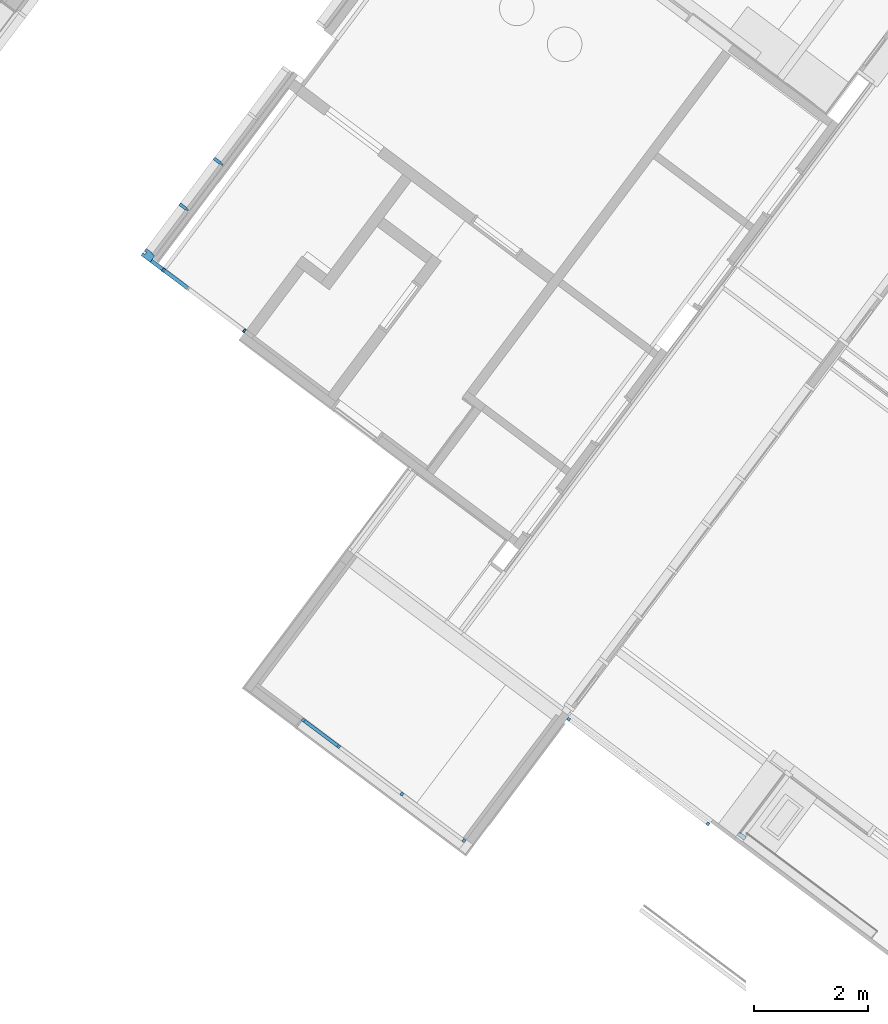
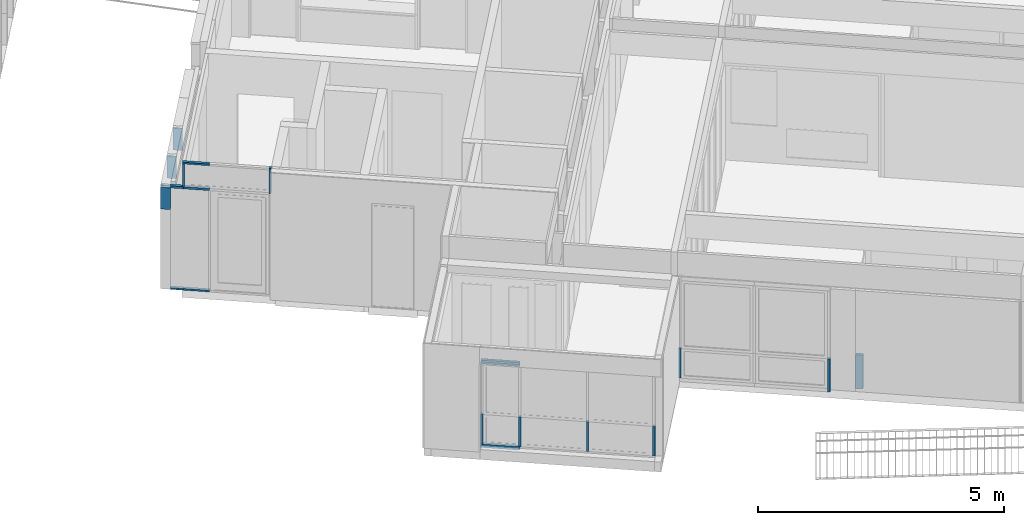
# One storey, part 79 of 243: 19 members, 5 elements without a shape of their own.
"""IFC2X3 building model written with IfcOpenShell, lengths in metres."""

from ifc_helpers import new_model, entity, si_unit, converted_unit, derived_unit, direction, frame, frame_2d, origin, place, context, subcontext, project, spatial, polyline, rectangle, outline, extrude, source, transform, mapped, material, type_object, type_shapes, element, aggregate, save


model = new_model("IFC2X3")

# Units and contexts
model_context = context("Model", 3, precision=1e-05, world=origin(), true_north=direction((6.123031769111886e-17, 1.0)))
body_context = subcontext(model_context, "Body", "Model", "MODEL_VIEW")
ifc_project = project(units=[si_unit("LENGTHUNIT", "METRE"), si_unit("AREAUNIT", "SQUARE_METRE"), si_unit("VOLUMEUNIT", "CUBIC_METRE"), converted_unit("PLANEANGLEUNIT", "DEGREE", entity("IfcRatioMeasure", 0.017453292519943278), si_unit("PLANEANGLEUNIT", "RADIAN"), dimensions=[0, 0, 0, 0, 0, 0, 0]), si_unit("MASSUNIT", "GRAM", prefix="KILO"), derived_unit("MASSDENSITYUNIT", [(si_unit("MASSUNIT", "GRAM", prefix="KILO"), 1), (si_unit("LENGTHUNIT", "METRE"), -3)]), derived_unit("IONCONCENTRATIONUNIT", [(si_unit("MASSUNIT", "GRAM", prefix="KILO"), 1), (si_unit("LENGTHUNIT", "METRE"), -3)]), derived_unit("MOMENTOFINERTIAUNIT", [(si_unit("LENGTHUNIT", "METRE"), 4)]), si_unit("TIMEUNIT", "SECOND"), si_unit("FREQUENCYUNIT", "HERTZ"), si_unit("THERMODYNAMICTEMPERATUREUNIT", "DEGREE_CELSIUS"), derived_unit("THERMALTRANSMITTANCEUNIT", [(si_unit("MASSUNIT", "GRAM", prefix="KILO"), 1), (si_unit("THERMODYNAMICTEMPERATUREUNIT", "KELVIN"), -1), (si_unit("TIMEUNIT", "SECOND"), -3)]), derived_unit("THERMALCONDUCTANCEUNIT", [(si_unit("MASSUNIT", "GRAM", prefix="KILO"), 1), (si_unit("THERMODYNAMICTEMPERATUREUNIT", "KELVIN"), -1), (si_unit("TIMEUNIT", "SECOND"), -3), (si_unit("LENGTHUNIT", "METRE"), 1)]), derived_unit("VOLUMETRICFLOWRATEUNIT", [(si_unit("LENGTHUNIT", "METRE"), 3), (si_unit("TIMEUNIT", "SECOND"), -1)]), derived_unit("MASSFLOWRATEUNIT", [(si_unit("MASSUNIT", "GRAM", prefix="KILO"), 1), (si_unit("TIMEUNIT", "SECOND"), -1)]), derived_unit("ROTATIONALFREQUENCYUNIT", [(si_unit("TIMEUNIT", "SECOND"), -1)]), si_unit("ELECTRICCURRENTUNIT", "AMPERE"), si_unit("ELECTRICVOLTAGEUNIT", "VOLT"), si_unit("POWERUNIT", "WATT"), si_unit("FORCEUNIT", "NEWTON", prefix="KILO"), si_unit("ILLUMINANCEUNIT", "LUX"), si_unit("LUMINOUSFLUXUNIT", "LUMEN"), si_unit("LUMINOUSINTENSITYUNIT", "CANDELA"), derived_unit("USERDEFINED", [(si_unit("MASSUNIT", "GRAM", prefix="KILO"), -1), (si_unit("LENGTHUNIT", "METRE"), -2), (si_unit("TIMEUNIT", "SECOND"), 3), (si_unit("LUMINOUSFLUXUNIT", "LUMEN"), 1)]), derived_unit("USERDEFINED", [(si_unit("MASSUNIT", "GRAM", prefix="KILO"), 1), (si_unit("TIMEUNIT", "SECOND"), -3), (si_unit("LENGTHUNIT", "METRE"), 3), (si_unit("ELECTRICCURRENTUNIT", "AMPERE"), -2)]), derived_unit("SOUNDPOWERUNIT", [(si_unit("MASSUNIT", "GRAM", prefix="KILO"), 1), (si_unit("TIMEUNIT", "SECOND"), -3), (si_unit("LENGTHUNIT", "METRE"), 2)]), derived_unit("SOUNDPRESSUREUNIT", [(si_unit("MASSUNIT", "GRAM", prefix="KILO"), 1), (si_unit("LENGTHUNIT", "METRE"), -1), (si_unit("TIMEUNIT", "SECOND"), -2)]), derived_unit("LINEARVELOCITYUNIT", [(si_unit("LENGTHUNIT", "METRE"), 1), (si_unit("TIMEUNIT", "SECOND"), -1)]), si_unit("PRESSUREUNIT", "PASCAL"), derived_unit("USERDEFINED", [(si_unit("MASSUNIT", "GRAM", prefix="KILO"), 1), (si_unit("LENGTHUNIT", "METRE"), -2), (si_unit("TIMEUNIT", "SECOND"), -2)]), derived_unit("LINEARFORCEUNIT", [(si_unit("MASSUNIT", "GRAM", prefix="KILO"), 1), (si_unit("TIMEUNIT", "SECOND"), -2)]), derived_unit("PLANARFORCEUNIT", [(si_unit("MASSUNIT", "GRAM", prefix="KILO"), 1), (si_unit("LENGTHUNIT", "METRE"), -1), (si_unit("TIMEUNIT", "SECOND"), -2)]), derived_unit("SPECIFICHEATCAPACITYUNIT", [(si_unit("THERMODYNAMICTEMPERATUREUNIT", "KELVIN"), -1), (si_unit("LENGTHUNIT", "METRE"), 2), (si_unit("TIMEUNIT", "SECOND"), -2)]), derived_unit("HEATINGVALUEUNIT", [(si_unit("LENGTHUNIT", "METRE"), 2), (si_unit("TIMEUNIT", "SECOND"), -2)]), derived_unit("VAPORPERMEABILITYUNIT", [(si_unit("LENGTHUNIT", "METRE"), -1), (si_unit("TIMEUNIT", "SECOND"), 1)]), derived_unit("DYNAMICVISCOSITYUNIT", [(si_unit("MASSUNIT", "GRAM", prefix="KILO"), 1), (si_unit("TIMEUNIT", "SECOND"), -1), (si_unit("LENGTHUNIT", "METRE"), -1)]), derived_unit("THERMALEXPANSIONCOEFFICIENTUNIT", [(si_unit("THERMODYNAMICTEMPERATUREUNIT", "KELVIN"), -1)]), derived_unit("MODULUSOFELASTICITYUNIT", [(si_unit("MASSUNIT", "GRAM", prefix="KILO"), 1), (si_unit("LENGTHUNIT", "METRE"), -1), (si_unit("TIMEUNIT", "SECOND"), -2)]), derived_unit("ISOTHERMALMOISTURECAPACITYUNIT", [(si_unit("LENGTHUNIT", "METRE"), 3), (si_unit("MASSUNIT", "GRAM", prefix="KILO"), -1)]), derived_unit("MOISTUREDIFFUSIVITYUNIT", [(si_unit("TIMEUNIT", "SECOND"), -1), (si_unit("LENGTHUNIT", "METRE"), 2)])], contexts=[model_context])

# Site, building, storey
site_placement = place(None, frame((0.0, 0.0, 235.0), z_axis=(0.0, 0.0, 1.0), x_axis=(-0.7996477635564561, 0.6004693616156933, 0.0)))
site = spatial("IfcSite", under=ifc_project, at=site_placement, Name="Default", CompositionType="ELEMENT")
building_placement = place(site_placement, origin())
building = spatial("IfcBuilding", under=site, at=building_placement, CompositionType="ELEMENT")
storey_placement = place(building_placement, origin())
storey = spatial("IfcBuildingStorey", under=building, at=storey_placement, Name="P0- Escola", CompositionType="ELEMENT", Elevation=0.0)

# Curtain wall, members
curtain_wall_type_1 = type_object("IfcCurtainWallType", Name="Muro cortina:MC- EXT- AL3", PredefinedType="NOTDEFINED")
curtain_wall_1_placement = place(storey_placement, origin())
curtain_wall_1 = element("IfcCurtainWall", 1, at=curtain_wall_1_placement, inside=storey, type_object=curtain_wall_type_1, Name="Muro cortina:MC- EXT- AL3", ObjectType="Muro cortina:MC- EXT- AL3")
ifc_material_1 = material(Name="_Alumini- T1- Perfil")
member_type_1 = type_object("IfcMemberType", Name="Montante rectangular:MC- Alu- 140x52,5 cm- Fa pista- Superior", PredefinedType="MULLION", material=ifc_material_1)
shared_shape_1 = source(origin(), body_context, "Body", "SweptSolid", [
    extrude(outline(polyline([(-0.02066666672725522, -0.04916666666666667), (0.03933333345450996, -0.04916666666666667), (0.03933333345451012, 0.00083333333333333), (-0.018666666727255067, 0.00083333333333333), (-0.018666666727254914, 0.04833333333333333), (-0.020666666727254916, 0.048333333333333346), (-0.02066666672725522, -0.04916666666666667)])), frame((-0.048333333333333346, 0.03933333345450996, -0.7999999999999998), z_axis=(0.0, 0.0, 1.0), x_axis=(0.0, -1.0, 0.0)), (0.0, 0.0, 1.0), 0.7999999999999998),
])
type_shapes(member_type_1, [shared_shape_1])
member_1_placement = place(curtain_wall_1_placement, frame((16.953147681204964, -15.46019175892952, 2.1699999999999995), z_axis=(1.0, 0.0, 0.0), x_axis=(0.0, 0.0, 1.0)))
member_1 = element("IfcMember", 2, at=member_1_placement, type_object=member_type_1, material=ifc_material_1, Name="Montante rectangular:MC- Alu- 140x52,5 cm- Fa pista- Superior", ObjectType="Montante rectangular:MC- Alu- 140x52,5 cm- Fa pista- Superior", context=body_context, shape_type="MappedRepresentation", body=[
    mapped(shared_shape_1, transform((0.0, 0.0, 0.0), scale=1.0)),
])
member_type_2 = type_object("IfcMemberType", Name="Montante rectangular:MC- Alu- 50x60 cm- Fa pista- Centre", PredefinedType="MULLION", material=ifc_material_1)
shared_shape_2 = source(origin(), body_context, "Body", "SweptSolid", [
    extrude(rectangle(XDim=0.060000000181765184, YDim=0.05, at=frame_2d((3.469446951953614e-18, 0.0), x_axis=(1.0, 0.0))), frame((-0.025, 0.030000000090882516, -0.7349999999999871), z_axis=(0.0, 0.0, 1.0), x_axis=(0.0, -1.0, 0.0)), (0.0, 0.0, 1.0), 0.7349999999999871),
])
type_shapes(member_type_2, [shared_shape_2])
member_2_placement = place(curtain_wall_1_placement, frame((16.953147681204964, -15.46019175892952, 0.085), z_axis=(0.0, 0.0, -1.0), x_axis=(1.0, 0.0, 0.0)))
member_2 = element("IfcMember", 3, at=member_2_placement, type_object=member_type_2, material=ifc_material_1, Name="Montante rectangular:MC- Alu- 50x60 cm- Fa pista- Centre", ObjectType="Montante rectangular:MC- Alu- 50x60 cm- Fa pista- Centre", context=body_context, shape_type="MappedRepresentation", body=[
    mapped(shared_shape_2, transform((0.0, 0.0, 0.0), scale=1.0)),
])
member_type_3 = type_object("IfcMemberType", Name="Montante rectangular:MC- Alu- 52x80 cm- Fa pista- inferior", PredefinedType="MULLION", material=ifc_material_1)
shared_shape_3 = source(origin(), body_context, "Body", "SweptSolid", [
    extrude(rectangle(XDim=0.06000000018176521, YDim=0.08500000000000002, at=frame_2d((-5.204170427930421e-18, -6.938893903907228e-18), x_axis=(1.0, 0.0))), frame((-0.0425, 0.030000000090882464, -0.8000000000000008), z_axis=(0.0, 0.0, 1.0), x_axis=(0.0, -1.0, 0.0)), (0.0, 0.0, 1.0), 0.8),
])
type_shapes(member_type_3, [shared_shape_3])
member_3_placement = place(curtain_wall_1_placement, frame((16.153147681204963, -15.460191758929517, 0.0), z_axis=(-1.0, 0.0, 0.0), x_axis=(0.0, 0.0, -1.0)))
member_3 = element("IfcMember", 4, at=member_3_placement, type_object=member_type_3, material=ifc_material_1, Name="Montante rectangular:MC- Alu- 52x80 cm- Fa pista- inferior", ObjectType="Montante rectangular:MC- Alu- 52x80 cm- Fa pista- inferior", context=body_context, shape_type="MappedRepresentation", body=[
    mapped(shared_shape_3, transform((0.0, 0.0, 0.0), scale=1.0)),
])
member_type_4 = type_object("IfcMemberType", Name="Montante rectangular:MC- Alu- 50x60 cm- Fa pista- Centre", PredefinedType="MULLION", material=ifc_material_1)
shared_shape_4 = source(origin(), body_context, "Body", "SweptSolid", [
    extrude(rectangle(XDim=0.0600000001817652, YDim=0.05, at=frame_2d((8.673617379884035e-18, 0.0), x_axis=(1.0, 0.0))), frame((0.0, 0.030000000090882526, -0.7349999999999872), z_axis=(0.0, 0.0, 1.0), x_axis=(0.0, -1.0, 0.0)), (0.0, 0.0, 1.0), 0.7349999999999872),
])
type_shapes(member_type_4, [shared_shape_4])
member_4_placement = place(curtain_wall_1_placement, frame((16.153147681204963, -15.460191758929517, 0.085), z_axis=(0.0, 0.0, -1.0), x_axis=(1.0, 0.0, 0.0)))
member_4 = element("IfcMember", 5, at=member_4_placement, type_object=member_type_4, material=ifc_material_1, Name="Montante rectangular:MC- Alu- 50x60 cm- Fa pista- Centre", ObjectType="Montante rectangular:MC- Alu- 50x60 cm- Fa pista- Centre", context=body_context, shape_type="MappedRepresentation", body=[
    mapped(shared_shape_4, transform((0.0, 0.0, 0.0), scale=1.0)),
])
member_5_placement = place(curtain_wall_1_placement, frame((14.76914768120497, -15.460191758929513, 0.085), z_axis=(0.0, 0.0, -1.0), x_axis=(1.0, 0.0, 0.0)))
member_5 = element("IfcMember", 6, at=member_5_placement, type_object=member_type_4, material=ifc_material_1, Name="Montante rectangular:MC- Alu- 50x60 cm- Fa pista- Centre", ObjectType="Montante rectangular:MC- Alu- 50x60 cm- Fa pista- Centre", context=body_context, shape_type="MappedRepresentation", body=[
    mapped(shared_shape_4, transform((0.0, 0.0, 0.0), scale=1.0)),
])
member_type_5 = type_object("IfcMemberType", Name="Montante rectangular:MC- Alu- 50x60 cm- Fa pista- Centre", PredefinedType="MULLION", material=ifc_material_1)
shared_shape_5 = source(origin(), body_context, "Body", "SweptSolid", [
    extrude(rectangle(XDim=0.06000000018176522, YDim=0.05, at=frame_2d((-3.469446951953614e-18, 0.0), x_axis=(1.0, 0.0))), frame((-0.025, 0.030000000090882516, -0.734999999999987), z_axis=(0.0, 0.0, 1.0), x_axis=(0.0, -1.0, 0.0)), (0.0, 0.0, 1.0), 0.734999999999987),
])
type_shapes(member_type_5, [shared_shape_5])
member_6_placement = place(curtain_wall_1_placement, frame((13.385147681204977, -15.46019175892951, 0.8199999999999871), z_axis=(0.0, 0.0, 1.0), x_axis=(-1.0, 0.0, 0.0)))
member_6 = element("IfcMember", 7, at=member_6_placement, type_object=member_type_5, material=ifc_material_1, Name="Montante rectangular:MC- Alu- 50x60 cm- Fa pista- Centre", ObjectType="Montante rectangular:MC- Alu- 50x60 cm- Fa pista- Centre", context=body_context, shape_type="MappedRepresentation", body=[
    mapped(shared_shape_5, transform((0.0, 0.0, 0.0), scale=1.0)),
])
aggregate(curtain_wall_1, [member_1, member_2, member_3, member_4, member_6, member_5])

# Curtain wall, member
curtain_wall_type_2 = type_object("IfcCurtainWallType", Name="Muro cortina:MC- INT- k1", PredefinedType="NOTDEFINED")
curtain_wall_2_placement = place(storey_placement, origin())
curtain_wall_2 = element("IfcCurtainWall", 8, at=curtain_wall_2_placement, inside=storey, type_object=curtain_wall_type_2, Name="Muro cortina:MC- INT- k1", ObjectType="Muro cortina:MC- INT- k1")
ifc_material_2 = material(Name="_Fusta massisa- T1")
member_type_6 = type_object("IfcMemberType", Name="Montante rectangular:MC- Fusta- 15x7- Neutre", PredefinedType="MULLION", material=ifc_material_2)
shared_shape_6 = source(origin(), body_context, "Body", "SweptSolid", [
    extrude(rectangle(XDim=0.1499999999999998, YDim=0.06999999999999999, at=frame_2d((4.85722573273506e-17, 0.0), x_axis=(1.0, 0.0))), frame((-0.034999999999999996, -0.04899999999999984, -0.8399999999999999), z_axis=(0.0, 0.0, 1.0), x_axis=(0.0, -1.0, 0.0)), (0.0, 0.0, 1.0), 0.8399999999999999),
])
type_shapes(member_type_6, [shared_shape_6])
member_7_placement = place(curtain_wall_2_placement, frame((9.619147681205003, -18.440191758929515, 0.0), z_axis=(0.0, 0.0, -1.0), x_axis=(0.0, 1.0, 0.0)))
member_7 = element("IfcMember", 9, at=member_7_placement, type_object=member_type_6, material=ifc_material_2, Name="Montante rectangular:MC- Fusta- 15x7- Neutre", ObjectType="Montante rectangular:MC- Fusta- 15x7- Neutre", context=body_context, shape_type="MappedRepresentation", body=[
    mapped(shared_shape_6, transform((0.0, 0.0, 0.0), scale=1.0)),
])
aggregate(curtain_wall_2, [member_7])

# Curtain wall, members
curtain_wall_type_3 = type_object("IfcCurtainWallType", Name="Muro cortina:MC- EXT- AL1- Fa porxo", PredefinedType="NOTDEFINED")
curtain_wall_3_placement = place(storey_placement, origin())
curtain_wall_3 = element("IfcCurtainWall", 10, at=curtain_wall_3_placement, inside=storey, type_object=curtain_wall_type_3, Name="Muro cortina:MC- EXT- AL1- Fa porxo", ObjectType="Muro cortina:MC- EXT- AL1- Fa porxo")
member_type_7 = type_object("IfcMemberType", Name="Montante rectangular:MC- Alu- 65x41 cm- Fa Porxo- Centre", PredefinedType="MULLION", material=ifc_material_1)
shared_shape_7 = source(origin(), body_context, "Body", "SweptSolid", [
    extrude(rectangle(XDim=0.06500000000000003, YDim=0.041000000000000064, at=frame_2d((0.0, -8.673617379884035e-18), x_axis=(1.0, 0.0))), frame((-0.020500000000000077, -0.032499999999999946, -0.6312500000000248), z_axis=(0.0, 0.0, 1.0), x_axis=(0.0, -1.0, 0.0)), (0.0, 0.0, 1.0), 0.6312500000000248),
])
type_shapes(member_type_7, [shared_shape_7])
member_8_placement = place(curtain_wall_3_placement, frame((21.825147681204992, -20.288941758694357, 2.51875), z_axis=(0.0, 0.0, -1.0), x_axis=(-1.0, 0.0, 0.0)))
member_8 = element("IfcMember", 11, at=member_8_placement, type_object=member_type_7, material=ifc_material_1, Name="Montante rectangular:MC- Alu- 65x41 cm- Fa Porxo- Centre", ObjectType="Montante rectangular:MC- Alu- 65x41 cm- Fa Porxo- Centre", context=body_context, shape_type="MappedRepresentation", body=[
    mapped(shared_shape_7, transform((0.0, 0.0, 0.0), scale=1.0)),
])
member_type_8 = type_object("IfcMemberType", Name="Montante rectangular:MC- Alu- 65x41 cm- Fa Porxo- Centre", PredefinedType="MULLION", material=ifc_material_1)
shared_shape_8 = source(origin(), body_context, "Body", "SweptSolid", [
    extrude(rectangle(XDim=0.06500000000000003, YDim=0.041000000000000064, at=frame_2d((0.0, -8.673617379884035e-18), x_axis=(1.0, 0.0))), frame((-0.020500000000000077, -0.032499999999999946, -0.5538333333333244), z_axis=(0.0, 0.0, 1.0), x_axis=(0.0, -1.0, 0.0)), (0.0, 0.0, 1.0), 0.5538333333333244),
])
type_shapes(member_type_8, [shared_shape_8])
member_9_placement = place(curtain_wall_3_placement, frame((23.085147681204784, -20.288941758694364, 3.150000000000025), z_axis=(-1.0, 0.0, 0.0), x_axis=(0.0, 0.0, 1.0)))
member_9 = element("IfcMember", 12, at=member_9_placement, type_object=member_type_8, material=ifc_material_1, Name="Montante rectangular:MC- Alu- 65x41 cm- Fa Porxo- Centre", ObjectType="Montante rectangular:MC- Alu- 65x41 cm- Fa Porxo- Centre", context=body_context, shape_type="MappedRepresentation", body=[
    mapped(shared_shape_8, transform((0.0, 0.0, 0.0), scale=1.0)),
])
member_type_9 = type_object("IfcMemberType", Name="Montante rectangular:MC- Alu- 65x41 cm- Fa Porxo- Centre", PredefinedType="MULLION", material=ifc_material_1)
shared_shape_9 = source(origin(), body_context, "Body", "SweptSolid", [
    extrude(rectangle(XDim=0.06500000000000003, YDim=0.041000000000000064, at=frame_2d((3.469446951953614e-18, -5.204170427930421e-18), x_axis=(1.0, 0.0))), frame((-0.020499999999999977, -0.032499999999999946, -0.5333333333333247), z_axis=(0.0, 0.0, 1.0), x_axis=(0.0, -1.0, 0.0)), (0.0, 0.0, 1.0), 0.5333333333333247),
])
type_shapes(member_type_9, [shared_shape_9])
member_10_placement = place(curtain_wall_3_placement, frame((23.61848101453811, -20.288941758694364, -0.020000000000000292), z_axis=(1.0, 0.0, 0.0), x_axis=(0.0, 0.0, -1.0)))
member_10 = element("IfcMember", 13, at=member_10_placement, type_object=member_type_9, material=ifc_material_1, Name="Montante rectangular:MC- Alu- 65x41 cm- Fa Porxo- Centre", ObjectType="Montante rectangular:MC- Alu- 65x41 cm- Fa Porxo- Centre", context=body_context, shape_type="MappedRepresentation", body=[
    mapped(shared_shape_9, transform((0.0, 0.0, 0.0), scale=1.0)),
])
member_type_10 = type_object("IfcMemberType", Name="Montante rectangular:MC- Alu- 65x52,5 cm- Fa Porxo- Centre", PredefinedType="MULLION", material=ifc_material_1)
shared_shape_10 = source(origin(), body_context, "Body", "SweptSolid", [
    extrude(rectangle(XDim=0.06500000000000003, YDim=0.05300000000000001, at=frame_2d((3.469446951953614e-18, 3.469446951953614e-18), x_axis=(1.0, 0.0))), frame((0.0, -0.03249999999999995, -0.5333333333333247), z_axis=(0.0, 0.0, 1.0), x_axis=(0.0, -1.0, 0.0)), (0.0, 0.0, 1.0), 0.5333333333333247),
])
type_shapes(member_type_10, [shared_shape_10])
member_11_placement = place(curtain_wall_3_placement, frame((23.085147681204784, -20.288941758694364, 2.51875), z_axis=(-1.0, 0.0, 0.0), x_axis=(0.0, 0.0, 1.0)))
member_11 = element("IfcMember", 14, at=member_11_placement, type_object=member_type_10, material=ifc_material_1, Name="Montante rectangular:MC- Alu- 65x52,5 cm- Fa Porxo- Centre", ObjectType="Montante rectangular:MC- Alu- 65x52,5 cm- Fa Porxo- Centre", context=body_context, shape_type="MappedRepresentation", body=[
    mapped(shared_shape_10, transform((0.0, 0.0, 0.0), scale=1.0)),
])
member_type_11 = type_object("IfcMemberType", Name="Montante rectangular:MC- Alu- 65x41 cm- Fa Porxo- Centre", PredefinedType="MULLION", material=ifc_material_1)
shared_shape_11 = source(origin(), body_context, "Body", "SweptSolid", [
    extrude(rectangle(XDim=0.06500000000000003, YDim=0.04100000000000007, at=frame_2d((0.0, -8.673617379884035e-18), x_axis=(1.0, 0.0))), frame((0.0, -0.032499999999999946, -0.5637500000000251), z_axis=(0.0, 0.0, 1.0), x_axis=(0.0, -1.0, 0.0)), (0.0, 0.0, 1.0), 0.5637500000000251),
])
type_shapes(member_type_11, [shared_shape_11])
member_12_placement = place(curtain_wall_3_placement, frame((23.61848101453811, -20.288941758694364, 2.54525), z_axis=(0.0, 0.0, -1.0), x_axis=(-1.0, 0.0, 0.0)))
member_12 = element("IfcMember", 15, at=member_12_placement, type_object=member_type_11, material=ifc_material_1, Name="Montante rectangular:MC- Alu- 65x41 cm- Fa Porxo- Centre", ObjectType="Montante rectangular:MC- Alu- 65x41 cm- Fa Porxo- Centre", context=body_context, shape_type="MappedRepresentation", body=[
    mapped(shared_shape_11, transform((0.0, 0.0, 0.0), scale=1.0)),
])

curtain_wall_type_4 = type_object("IfcCurtainWallType", Name="Muro cortina:MC- EXT- MC2", PredefinedType="NOTDEFINED")
curtain_wall_4_placement = place(storey_placement, origin())
curtain_wall_4 = element("IfcCurtainWall", 16, at=curtain_wall_4_placement, inside=storey, type_object=curtain_wall_type_4, Name="Muro cortina:MC- EXT- MC2", ObjectType="Muro cortina:MC- EXT- MC2")
member_type_12 = type_object("IfcMemberType", Name="Montante rectangular:MC- Alu- 140x52,5 cm- Fa patis- Cantonada", PredefinedType="MULLION", material=ifc_material_1)
shared_shape_12 = source(origin(), body_context, "Body", "SweptSolid", [
    extrude(outline(polyline([(-0.04333333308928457, -0.05708333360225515), (0.09566666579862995, -0.05708333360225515), (0.09566666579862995, -0.004583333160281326), (0.05066666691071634, -0.004583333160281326), (0.050666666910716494, 0.042916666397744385), (0.09566666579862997, 0.042916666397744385), (0.09566666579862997, 0.09541666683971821), (-0.1043333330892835, 0.09541666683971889), (-0.1043333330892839, -0.03083333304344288), (-0.09433333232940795, -0.030833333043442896), (-0.094333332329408, -0.04583333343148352), (-0.04333333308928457, -0.0458333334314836), (-0.04333333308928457, -0.05708333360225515)])), frame((-0.09541666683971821, -0.0443333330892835, -0.5375000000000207), z_axis=(0.0, 0.0, 1.0), x_axis=(0.0, -1.0, 0.0)), (0.0, 0.0, 1.0), 0.5375000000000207),
])
type_shapes(member_type_12, [shared_shape_12])
member_13_placement = place(curtain_wall_4_placement, frame((23.945147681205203, -20.28894175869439, 2.4924999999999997), z_axis=(0.0, 0.0, 1.0), x_axis=(0.0, 1.0, 0.0)))
member_13 = element("IfcMember", 17, at=member_13_placement, type_object=member_type_12, material=ifc_material_1, Name="Montante rectangular:MC- Alu- 140x52,5 cm- Fa patis- Cantonada", ObjectType="Montante rectangular:MC- Alu- 140x52,5 cm- Fa patis- Cantonada", context=body_context, shape_type="MappedRepresentation", body=[
    mapped(shared_shape_12, transform((0.0, 0.0, 0.0), scale=1.0)),
])
member_type_13 = type_object("IfcMemberType", Name="Montante rectangular:MC- Alu- 140x52,5 cm- Fa patis- Centre", PredefinedType="MULLION", material=ifc_material_1)
shared_shape_13 = source(origin(), body_context, "Body", "SweptSolid", [
    extrude(outline(polyline([(-0.021999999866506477, -0.026250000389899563), (0.11699999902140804, -0.026250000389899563), (0.11699999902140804, 0.026250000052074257), (-0.02200000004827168, 0.026250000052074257), (-0.02200000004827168, 0.015000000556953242), (-0.07299999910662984, 0.015000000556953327), (-0.07299999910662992, -0.01500000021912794), (-0.021999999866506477, -0.01500000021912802), (-0.021999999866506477, -0.026250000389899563)])), frame((0.0, -0.022999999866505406, -0.5375000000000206), z_axis=(0.0, 0.0, 1.0), x_axis=(0.0, -1.0, 0.0)), (0.0, 0.0, 1.0), 0.5375000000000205),
])
type_shapes(member_type_13, [shared_shape_13])
member_14_placement = place(curtain_wall_4_placement, frame((23.945147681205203, -21.415191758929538, 1.9549999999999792), z_axis=(0.0, 0.0, -1.0), x_axis=(0.0, -1.0, 0.0)))
member_14 = element("IfcMember", 18, at=member_14_placement, type_object=member_type_13, material=ifc_material_1, Name="Montante rectangular:MC- Alu- 140x52,5 cm- Fa patis- Centre", ObjectType="Montante rectangular:MC- Alu- 140x52,5 cm- Fa patis- Centre", context=body_context, shape_type="MappedRepresentation", body=[
    mapped(shared_shape_13, transform((0.0, 0.0, 0.0), scale=1.0)),
])
member_15_placement = place(curtain_wall_4_placement, frame((23.945147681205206, -22.415191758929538, 1.9549999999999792), z_axis=(0.0, 0.0, -1.0), x_axis=(0.0, -1.0, 0.0)))
member_15 = element("IfcMember", 19, at=member_15_placement, type_object=member_type_13, material=ifc_material_1, Name="Montante rectangular:MC- Alu- 140x52,5 cm- Fa patis- Centre", ObjectType="Montante rectangular:MC- Alu- 140x52,5 cm- Fa patis- Centre", context=body_context, shape_type="MappedRepresentation", body=[
    mapped(shared_shape_13, transform((0.0, 0.0, 0.0), scale=1.0)),
])
aggregate(curtain_wall_4, [member_13, member_14, member_15])

# Member
member_type_14 = type_object("IfcMemberType", Name="Montante rectangular:MC- Alu- 65x41 cm- Fa Porxo- Centre", PredefinedType="MULLION", material=ifc_material_1)
shared_shape_14 = source(origin(), body_context, "Body", "SweptSolid", [
    extrude(rectangle(XDim=0.06500000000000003, YDim=0.041000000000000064, at=frame_2d((3.469446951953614e-18, -5.204170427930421e-18), x_axis=(1.0, 0.0))), frame((-0.020499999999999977, -0.032499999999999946, -0.2666666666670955), z_axis=(0.0, 0.0, 1.0), x_axis=(0.0, -1.0, 0.0)), (0.0, 0.0, 1.0), 0.2666666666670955),
])
type_shapes(member_type_14, [shared_shape_14])
member_16_placement = place(curtain_wall_3_placement, frame((23.885147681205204, -20.288941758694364, -0.020000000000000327), z_axis=(1.0, 0.0, 0.0), x_axis=(0.0, 0.0, -1.0)))
member_16 = element("IfcMember", 20, at=member_16_placement, type_object=member_type_14, material=ifc_material_1, Name="Montante rectangular:MC- Alu- 65x41 cm- Fa Porxo- Centre", ObjectType="Montante rectangular:MC- Alu- 65x41 cm- Fa Porxo- Centre", context=body_context, shape_type="MappedRepresentation", body=[
    mapped(shared_shape_14, transform((0.0, 0.0, 0.0), scale=1.0)),
])

member_type_15 = type_object("IfcMemberType", Name="Montante rectangular:MC- Alu- 65x52,5 cm- Fa Porxo- Centre", PredefinedType="MULLION", material=ifc_material_1)
shared_shape_15 = source(origin(), body_context, "Body", "SweptSolid", [
    extrude(rectangle(XDim=0.06500000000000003, YDim=0.05300000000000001, at=frame_2d((3.469446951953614e-18, 3.469446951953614e-18), x_axis=(1.0, 0.0))), frame((0.0, -0.03249999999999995, -0.2666666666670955), z_axis=(0.0, 0.0, 1.0), x_axis=(0.0, -1.0, 0.0)), (0.0, 0.0, 1.0), 0.2666666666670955),
])
type_shapes(member_type_15, [shared_shape_15])
member_17_placement = place(curtain_wall_3_placement, frame((23.61848101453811, -20.288941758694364, 2.51875), z_axis=(-1.0, 0.0, 0.0), x_axis=(0.0, 0.0, 1.0)))
member_17 = element("IfcMember", 21, at=member_17_placement, type_object=member_type_15, material=ifc_material_1, Name="Montante rectangular:MC- Alu- 65x52,5 cm- Fa Porxo- Centre", ObjectType="Montante rectangular:MC- Alu- 65x52,5 cm- Fa Porxo- Centre", context=body_context, shape_type="MappedRepresentation", body=[
    mapped(shared_shape_15, transform((0.0, 0.0, 0.0), scale=1.0)),
])

aggregate(curtain_wall_3, [member_16, member_8, member_17, member_9, member_10, member_11, member_12])

# Curtain wall, members
curtain_wall_5_placement = place(storey_placement, origin())
curtain_wall_5 = element("IfcCurtainWall", 22, at=curtain_wall_5_placement, inside=storey, type_object=curtain_wall_type_1, Name="Muro cortina:MC- EXT- AL3", ObjectType="Muro cortina:MC- EXT- AL3")
member_type_16 = type_object("IfcMemberType", Name="Montante rectangular:MC- Alu- 50x60 cm- Fa pista- Centre", PredefinedType="MULLION", material=ifc_material_1)
shared_shape_16 = source(origin(), body_context, "Body", "SweptSolid", [
    extrude(rectangle(XDim=0.06000000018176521, YDim=0.05, at=frame_2d((3.469446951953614e-18, 0.0), x_axis=(1.0, 0.0))), frame((-0.025, -0.030000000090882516, -0.7349999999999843), z_axis=(0.0, 0.0, 1.0), x_axis=(0.0, -1.0, 0.0)), (0.0, 0.0, 1.0), 0.7349999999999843),
])
type_shapes(member_type_16, [shared_shape_16])
member_18_placement = place(curtain_wall_5_placement, frame((13.24514768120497, -18.32199175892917, 0.085), z_axis=(0.0, 0.0, -1.0), x_axis=(1.0, 0.0, 0.0)))
member_18 = element("IfcMember", 23, at=member_18_placement, type_object=member_type_16, material=ifc_material_1, Name="Montante rectangular:MC- Alu- 50x60 cm- Fa pista- Centre", ObjectType="Montante rectangular:MC- Alu- 50x60 cm- Fa pista- Centre", context=body_context, shape_type="MappedRepresentation", body=[
    mapped(shared_shape_16, transform((0.0, 0.0, 0.0), scale=1.0)),
])
member_type_17 = type_object("IfcMemberType", Name="Montante rectangular:MC- Alu- 50x60 cm- Fa pista- Centre", PredefinedType="MULLION", material=ifc_material_1)
shared_shape_17 = source(origin(), body_context, "Body", "SweptSolid", [
    extrude(rectangle(XDim=0.0600000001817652, YDim=0.05, at=frame_2d((-8.673617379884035e-18, 0.0), x_axis=(1.0, 0.0))), frame((-0.025, -0.030000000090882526, -0.8199999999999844), z_axis=(0.0, 0.0, 1.0), x_axis=(0.0, -1.0, 0.0)), (0.0, 0.0, 1.0), 0.8199999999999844),
])
type_shapes(member_type_17, [shared_shape_17])
member_19_placement = place(curtain_wall_5_placement, frame((10.145147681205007, -18.321991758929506, 0.8199999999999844), z_axis=(0.0, 0.0, 1.0), x_axis=(-1.0, 0.0, 0.0)))
member_19 = element("IfcMember", 24, at=member_19_placement, type_object=member_type_17, material=ifc_material_1, Name="Montante rectangular:MC- Alu- 50x60 cm- Fa pista- Centre", ObjectType="Montante rectangular:MC- Alu- 50x60 cm- Fa pista- Centre", context=body_context, shape_type="MappedRepresentation", body=[
    mapped(shared_shape_17, transform((0.0, 0.0, 0.0), scale=1.0)),
])
aggregate(curtain_wall_5, [member_18, member_19])

save(model, "model.ifc")
